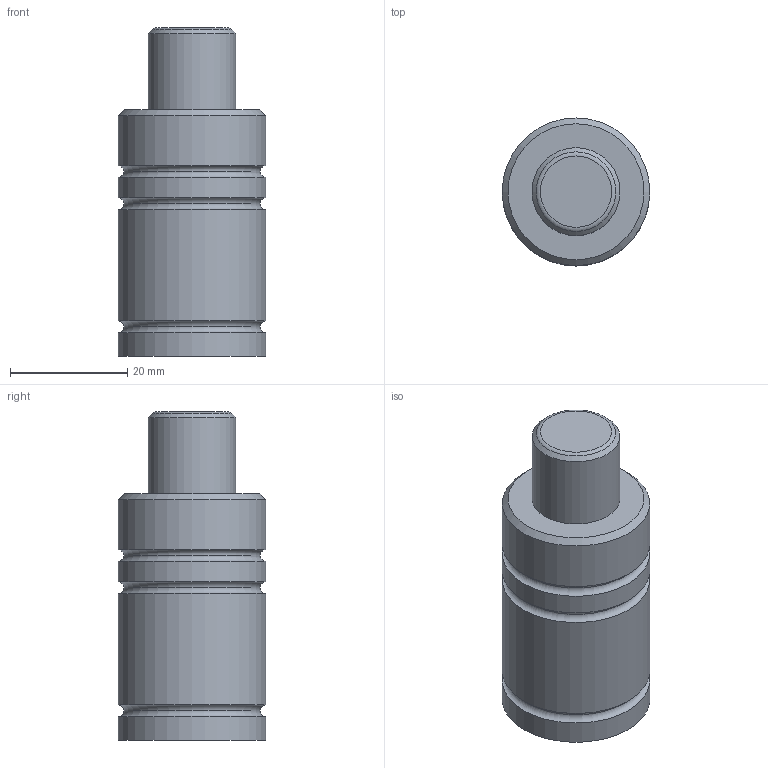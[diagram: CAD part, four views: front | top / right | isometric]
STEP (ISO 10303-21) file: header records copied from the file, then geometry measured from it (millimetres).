
FILE_DESCRIPTION(('FreeCAD Model'),'2;1');
FILE_NAME('Open CASCADE Shape Model','2024-11-11T15:52:46',('Author'),( ''),'Open CASCADE STEP processor 7.6','FreeCAD','Unknown');
FILE_SCHEMA(('AUTOMOTIVE_DESIGN { 1 0 10303 214 1 1 1 1 }'));
Length unit declared in the file: millimetre
Products named in the file (5): Unnamed; Part003; Fillet; Part007; Cut001
Assembly tree (4 placements, depth 3):
  Unnamed
    Part003
      Fillet
    Part007
      Cut001
Bounding box: 25.2 x 25.2 x 56 mm (x, y, z)
Volume: 22855.6 mm3; surface area: 5579.8 mm2
Topology: 2 solids, 2 shells, 21 faces, 35 edges, 19 vertices
Faces by surface type: torus 7, cylinder 6, plane 5, cone 3
Full cylindrical faces by diameter (mm): 6 x1, 15 x1, 25.2 x4
Entity records: 593 total; most frequent: DIRECTION 113, CARTESIAN_POINT 80, ORIENTED_EDGE 70, AXIS2_PLACEMENT_3D 52, EDGE_CURVE 35, CIRCLE 26, FACE_BOUND 22, EDGE_LOOP 22
